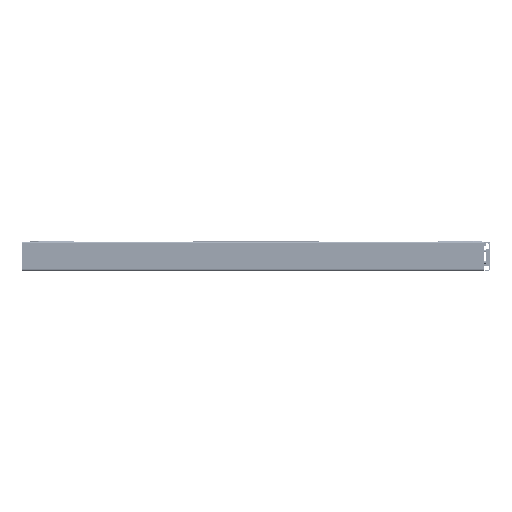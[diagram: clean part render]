
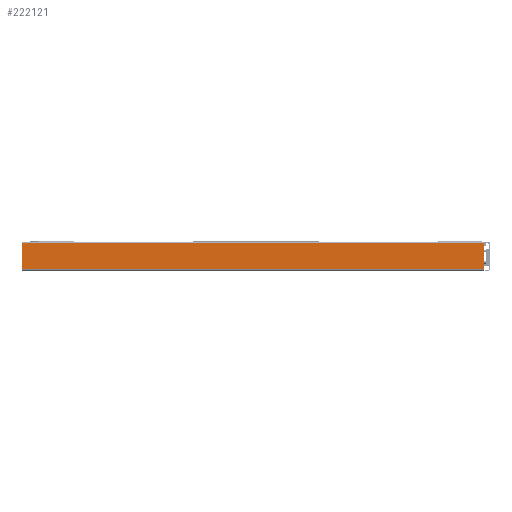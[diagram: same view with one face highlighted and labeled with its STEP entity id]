
A CAD part, left-side view. The second image highlights one B-rep face of the part: STEP entity #222121.
In plain terms, the highlighted planar face has unit normal (-1, 0, 0) as drawn and (0, 1, 0) by its records, which use the part's own axes.
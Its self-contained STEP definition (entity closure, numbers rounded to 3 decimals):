
#216712=DIRECTION('',(0.,0.,-1.));
#216713=VECTOR('',#216712,27.);
#216714=CARTESIAN_POINT('',(246.03,0.,-1.5));
#216715=LINE('',#216714,#216713);
#216859=DIRECTION('',(1.,0.,0.));
#216860=VECTOR('',#216859,485.89);
#216861=CARTESIAN_POINT('',(-239.86,0.,-1.5));
#216862=LINE('',#216861,#216860);
#217723=DIRECTION('',(-1.,0.,0.));
#217724=VECTOR('',#217723,485.89);
#217725=CARTESIAN_POINT('',(246.03,0.,-28.5));
#217726=LINE('',#217725,#217724);
#217731=DIRECTION('',(0.,0.,-1.));
#217732=VECTOR('',#217731,27.);
#217733=CARTESIAN_POINT('',(-239.86,0.,-1.5));
#217734=LINE('',#217733,#217732);
#219995=CARTESIAN_POINT('',(246.03,0.,-1.5));
#219996=VERTEX_POINT('',#219995);
#219997=CARTESIAN_POINT('',(246.03,0.,-28.5));
#219998=VERTEX_POINT('',#219997);
#220059=CARTESIAN_POINT('',(-239.86,0.,-1.5));
#220060=VERTEX_POINT('',#220059);
#220121=CARTESIAN_POINT('',(-239.86,0.,-28.5));
#220122=VERTEX_POINT('',#220121);
#222110=CARTESIAN_POINT('',(-245.95,0.,-30.5));
#222111=DIRECTION('',(0.,1.,0.));
#222112=DIRECTION('',(0.,0.,1.));
#222113=AXIS2_PLACEMENT_3D('',#222110,#222111,#222112);
#222114=PLANE('',#222113);
#222115=ORIENTED_EDGE('',*,*,#221087,.F.);
#222116=ORIENTED_EDGE('',*,*,#221163,.F.);
#222117=ORIENTED_EDGE('',*,*,#221236,.T.);
#222118=ORIENTED_EDGE('',*,*,#222103,.F.);
#222119=EDGE_LOOP('',(#222115,#222116,#222117,#222118));
#222120=FACE_OUTER_BOUND('',#222119,.F.);
#222121=ADVANCED_FACE('',(#222120),#222114,.T.);
#221087=EDGE_CURVE('',#219996,#219998,#216715,.T.);
#221163=EDGE_CURVE('',#220060,#219996,#216862,.T.);
#221236=EDGE_CURVE('',#220060,#220122,#217734,.T.);
#222103=EDGE_CURVE('',#219998,#220122,#217726,.T.);
